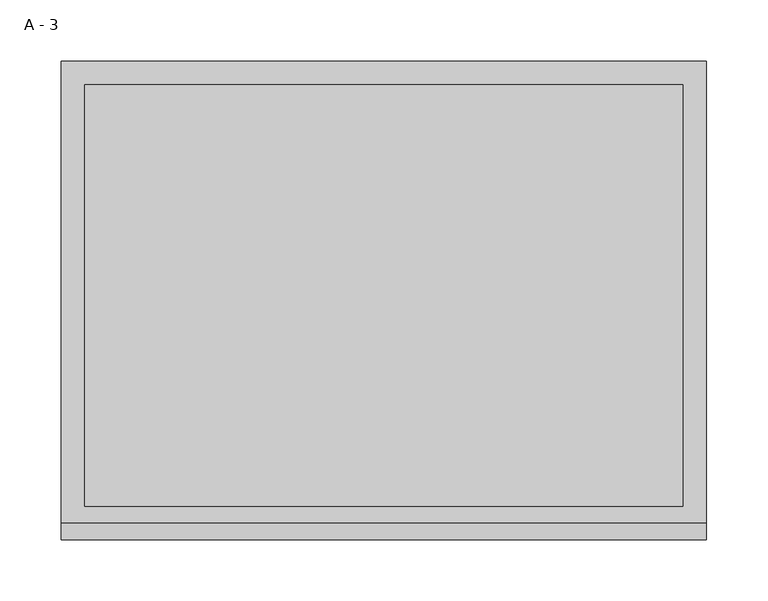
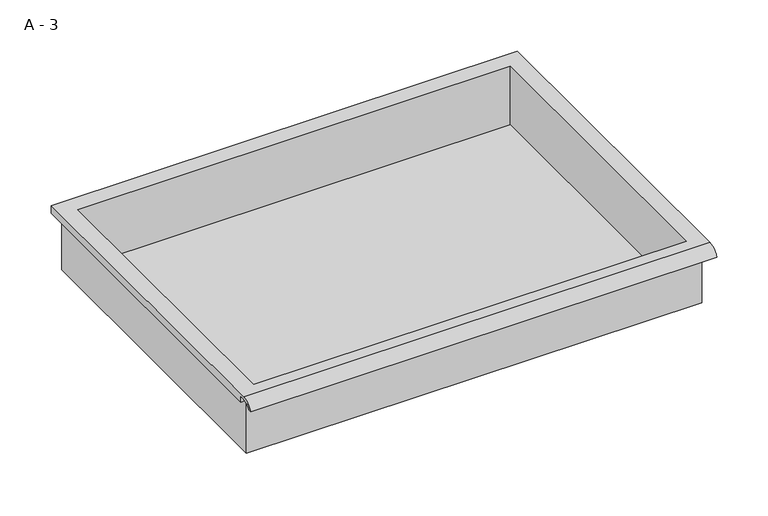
"""IFC4 building model written with IfcOpenShell, lengths in millimetres: furniture geometry, HermanMiller_CoStruc_CO207_Drawer : A - 3."""

from ifc_helpers import new_model, si_unit, frame, origin, place, context, project, spatial, polyline, circle_curve, source, transform, mapped, element, save
from ifc_brep_helpers import plane_surface, cylinder_surface, revolved_surface, advanced_brep


def a_3_a4d30848(model_context):
    return source(origin(), model_context, "Body", "AdvancedBrep", [
        advanced_brep(
        [(-257.1076517, -176.2125, 865.98252), (257.2423483, -176.2125, 865.98252), (257.2423483, -176.2125, 929.48252), (263.5923483, -176.2125, 929.48252), (263.5923483, -176.2125, 935.7896541), (-263.4576517, -176.2125, 935.7896541), (-263.4576517, -176.2125, 929.48252), (-257.1076517, -176.2125, 929.48252), (257.2423483, 185.7375, 865.98252), (-257.1076517, 185.7375, 865.98252), (-257.1076517, 185.7375, 929.48252), (257.2423483, 185.7375, 929.48252), (263.5923483, -181.6070544, 939.00752), (263.5923483, 195.2625, 939.00752), (-263.4576517, 195.2625, 939.00752), (-263.4576517, -181.6070544, 939.00752), (244.5423483, -168.275, 939.00752), (-244.4076517, -168.275, 939.00752), (-244.4076517, 176.2125, 939.00752), (244.5423483, 176.2125, 939.00752), (263.5923483, -195.2625, 929.48252), (263.5923483, -191.8280601, 929.48252), (263.5923483, -180.4714815, 935.7896541), (263.5923483, 195.2625, 929.48252), (-263.4576517, 195.2625, 929.48252), (-263.4576517, -180.4714815, 935.7896541), (-263.4576517, -191.8280601, 929.48252), (-263.4576517, -195.2625, 929.48252), (-244.4076517, -168.275, 869.0086919), (244.5423483, -168.275, 869.0086919), (244.5423483, 176.2125, 869.0086919), (-244.4076517, 176.2125, 869.0086919)],
        [
            (0, 1),
            (1, 2),
            (2, 3),
            (3, 4),
            (4, 5),
            (5, 6),
            (6, 7),
            (7, 0),
            (8, 9),
            (9, 10),
            (10, 11),
            (11, 8),
            (0, 9),
            (8, 1),
            (11, 2),
            (12, 13),
            (13, 14),
            (14, 15),
            (15, 12),
            (16, 17),
            (17, 18),
            (18, 19),
            (19, 16),
            (7, 10),
            (12, 20, circle_curve(frame((263.5923483, -181.6070544, 924.4565059), z_axis=(1.0, 0.0, 0.0), x_axis=(0.0, 1.0, 0.0)), 14.5510141)),
            (20, 21),
            (21, 22, circle_curve(frame((263.5923483, -181.6070544, 924.4565059), z_axis=(-1.0, 0.0, 0.0), x_axis=(0.0, 1.0, 0.0)), 11.3898979)),
            (22, 4),
            (3, 23),
            (23, 13),
            (14, 24),
            (24, 6),
            (5, 25),
            (25, 26, circle_curve(frame((-263.4576517, -181.6070544, 924.4565059), z_axis=(1.0, 0.0, 0.0), x_axis=(0.0, 1.0, 0.0)), 11.3898979)),
            (26, 27),
            (27, 15, circle_curve(frame((-263.4576517, -181.6070544, 924.4565059), z_axis=(-1.0, 0.0, 0.0), x_axis=(0.0, 1.0, 0.0)), 14.5510141)),
            (27, 20),
            (26, 21),
            (25, 22),
            (24, 23),
            (28, 29),
            (29, 30),
            (30, 31),
            (31, 28),
            (28, 17),
            (16, 29),
            (19, 30),
            (18, 31),
        ],
        [
            plane_surface(frame((257.2423483, -176.2125, 865.98252), z_axis=(0.0, -1.0, 0.0), x_axis=(1.0, 0.0, 0.0))),
            plane_surface(frame((257.2423483, 185.7375, 865.98252), z_axis=(0.0, 1.0, 0.0), x_axis=(-1.0, 0.0, 0.0))),
            plane_surface(frame((-257.1076517, -176.2125, 865.98252), z_axis=(0.0, 0.0, -1.0), x_axis=(0.0, 1.0, 0.0))),
            plane_surface(frame((257.2423483, -176.2125, 865.98252), z_axis=(1.0, 0.0, 0.0), x_axis=(0.0, 1.0, 0.0))),
            plane_surface(frame((257.2423483, -176.2125, 939.00752), z_axis=(0.0, 0.0, 1.0), x_axis=(0.0, 1.0, 0.0))),
            plane_surface(frame((-257.1076517, -176.2125, 939.00752), z_axis=(-1.0, 0.0, 0.0), x_axis=(0.0, 1.0, 0.0))),
            plane_surface(frame((263.5923483, 195.2625, 939.00752), z_axis=(1.0, 0.0, 0.0), x_axis=(0.0, -1.0, 0.0))),
            plane_surface(frame((-263.4576517, 195.2625, 939.00752), z_axis=(-1.0, 0.0, 0.0), x_axis=(0.0, 1.0, 0.0))),
            cylinder_surface(frame((-263.4576517, -181.6070544, 924.4565059), z_axis=(1.0, 0.0, 0.0), x_axis=(0.0, 1.0, 0.0)), 14.5510141),
            plane_surface(frame((263.5923483, -195.2625, 929.48252), z_axis=(0.0, -7.1335849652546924e-12, -1.0), x_axis=(-1.0, 0.0, 0.0))),
            revolved_surface(polyline([(-263.4576517, -170.21715650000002, 924.4565059), (263.59234829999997, -170.21715650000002, 924.4565059)]), (-263.4576517, -181.6070544, 924.4565059), (-1.0, 0.0, 0.0)),
            plane_surface(frame((263.5923483, -180.4714815, 935.7896541), z_axis=(0.0, -1.773428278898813e-11, -1.0), x_axis=(-1.0, 0.0, 0.0))),
            plane_surface(frame((263.5923483, -176.2125, 929.48252), z_axis=(0.0, 0.0, -1.0), x_axis=(-1.0, 0.0, 0.0))),
            plane_surface(frame((263.5923483, 195.2625, 929.48252), z_axis=(0.0, 1.0, 0.0), x_axis=(-1.0, 0.0, 0.0))),
            plane_surface(frame((244.5423483, -168.275, 869.0086919), z_axis=(0.0, 0.0, 1.0), x_axis=(-1.0, 0.0, 0.0))),
            plane_surface(frame((-244.4076517, -168.275, 939.00752), z_axis=(0.0, 1.0, 0.0), x_axis=(0.0, 0.0, -1.0))),
            plane_surface(frame((244.5423483, -168.275, 939.00752), z_axis=(-1.0, 0.0, 0.0), x_axis=(0.0, 0.0, -1.0))),
            plane_surface(frame((244.5423483, 176.2125, 939.00752), z_axis=(0.0, -1.0, 0.0), x_axis=(0.0, 0.0, -1.0))),
            plane_surface(frame((-244.4076517, 176.2125, 939.00752), z_axis=(1.0, 0.0, 0.0), x_axis=(0.0, 0.0, -1.0))),
        ],
        [
            (0, [[1, 2, 3, 4, 5, 6, 7, 8]]),
            (1, [[9, 10, 11, 12]]),
            (2, [[-1, 13, -9, 14]]),
            (3, [[-14, -12, 15, -2]]),
            (4, [[16, 17, 18, 19], [20, 21, 22, 23]]),
            (5, [[-13, -8, 24, -10]]),
            (6, [[-16, 25, 26, 27, 28, -4, 29, 30]]),
            (7, [[31, 32, -6, 33, 34, 35, 36, -18]]),
            (8, [[-25, -19, -36, 37]]),
            (9, [[-26, -37, -35, 38]]),
            (10, [[-27, -38, -34, 39]]),
            (11, [[-28, -39, -33, -5]]),
            (12, [[-29, -3, -15, -11, -24, -7, -32, 40]]),
            (13, [[-30, -40, -31, -17]]),
            (14, [[41, 42, 43, 44]]),
            (15, [[-41, 45, -20, 46]]),
            (16, [[-42, -46, -23, 47]]),
            (17, [[-43, -47, -22, 48]]),
            (18, [[-44, -48, -21, -45]]),
        ],
    ),
    ])


if __name__ == "__main__":
    model = new_model("IFC4")
    model_context = context("Model", 3, world=origin())
    ifc_project = project(units=[si_unit("LENGTHUNIT", "METRE", prefix="MILLI")], contexts=[model_context])
    site = spatial("IfcSite", under=ifc_project)
    building = spatial("IfcBuilding", under=site)
    placement = place(None, origin())
    a_3_shape = a_3_a4d30848(model_context)
    element("IfcFurniture", 1, ObjectType="HermanMiller_CoStruc_CO207_Drawer : A - 3", at=placement, inside=building, context=model_context, shape_type="MappedRepresentation", body=[
        mapped(a_3_shape, transform((0.0, 0.0, 0.0), x_axis=(1.0, 0.0, 0.0), y_axis=(0.0, 1.0, 0.0), z_axis=(0.0, 0.0, 1.0))),
    ])
    save(model, "model.ifc")
